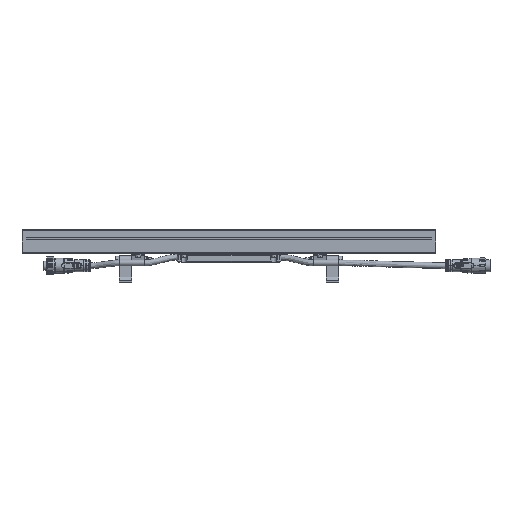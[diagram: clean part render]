
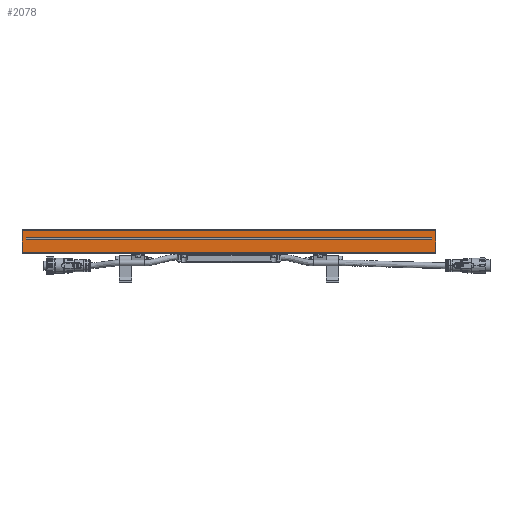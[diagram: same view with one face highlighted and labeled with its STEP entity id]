
A CAD part, top view. The second image highlights one B-rep face of the part: STEP entity #2078.
In plain terms, the highlighted planar face has unit normal (0, 0, 1).
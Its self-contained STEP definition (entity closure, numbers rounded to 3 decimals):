
#210 = FACE_OUTER_BOUND ( 'NONE', #66393, .T. ) ;
#940 = VECTOR ( 'NONE', #8649, 1000. ) ;
#2078 = ADVANCED_FACE ( 'NONE', ( #63482, #210 ), #24671, .T. ) ;
#2498 = CARTESIAN_POINT ( 'NONE',  ( 245., 54.2, 21. ) ) ;
#4235 = LINE ( 'NONE', #27200, #34427 ) ;
#6045 = VERTEX_POINT ( 'NONE', #53182 ) ;
#7246 = DIRECTION ( 'NONE',  ( 0., -1., 0. ) ) ;
#7871 = EDGE_LOOP ( 'NONE', ( #20884, #29689, #50807, #33663 ) ) ;
#8331 = LINE ( 'NONE', #19264, #21238 ) ;
#8649 = DIRECTION ( 'NONE',  ( -1., 0., 0. ) ) ;
#9022 = LINE ( 'NONE', #43361, #940 ) ;
#9226 = AXIS2_PLACEMENT_3D ( 'NONE', #57476, #28833, #12980 ) ;
#9594 = LINE ( 'NONE', #37175, #17132 ) ;
#12980 = DIRECTION ( 'NONE',  ( 0., 1., 0. ) ) ;
#13011 = EDGE_CURVE ( 'NONE', #23056, #74286, #16968, .T. ) ;
#15131 = VERTEX_POINT ( 'NONE', #2498 ) ;
#16540 = VECTOR ( 'NONE', #45265, 1000. ) ;
#16968 = LINE ( 'NONE', #57313, #31116 ) ;
#17132 = VECTOR ( 'NONE', #37533, 1000. ) ;
#17839 = VERTEX_POINT ( 'NONE', #71213 ) ;
#19264 = CARTESIAN_POINT ( 'NONE',  ( -245., 62.5, 21. ) ) ;
#19920 = VERTEX_POINT ( 'NONE', #29558 ) ;
#20824 = DIRECTION ( 'NONE',  ( 0., -1., 0. ) ) ;
#20884 = ORIENTED_EDGE ( 'NONE', *, *, #49975, .F. ) ;
#21238 = VECTOR ( 'NONE', #7246, 1000. ) ;
#22228 = CARTESIAN_POINT ( 'NONE',  ( -749.8, 36., 21. ) ) ;
#23056 = VERTEX_POINT ( 'NONE', #35008 ) ;
#23661 = EDGE_CURVE ( 'NONE', #50915, #23056, #4235, .T. ) ;
#24671 = PLANE ( 'NONE',  #9226 ) ;
#27200 = CARTESIAN_POINT ( 'NONE',  ( -745., 62.5, 21. ) ) ;
#28112 = CARTESIAN_POINT ( 'NONE',  ( -249.8, 36., 21. ) ) ;
#28833 = DIRECTION ( 'NONE',  ( 0., 0., 1. ) ) ;
#29558 = CARTESIAN_POINT ( 'NONE',  ( -245., 51.8, 21. ) ) ;
#29689 = ORIENTED_EDGE ( 'NONE', *, *, #35605, .F. ) ;
#30673 = EDGE_CURVE ( 'NONE', #6045, #19920, #9594, .T. ) ;
#31116 = VECTOR ( 'NONE', #73866, 1000. ) ;
#33175 = LINE ( 'NONE', #56140, #16540 ) ;
#33663 = ORIENTED_EDGE ( 'NONE', *, *, #30673, .T. ) ;
#34427 = VECTOR ( 'NONE', #38521, 1000. ) ;
#35008 = CARTESIAN_POINT ( 'NONE',  ( -249.8, 62.5, 21. ) ) ;
#35605 = EDGE_CURVE ( 'NONE', #15131, #70552, #9022, .T. ) ;
#37175 = CARTESIAN_POINT ( 'NONE',  ( 245., 51.8, 21. ) ) ;
#37533 = DIRECTION ( 'NONE',  ( -1., 0., 0. ) ) ;
#38521 = DIRECTION ( 'NONE',  ( -1., 0., 0. ) ) ;
#40448 = EDGE_CURVE ( 'NONE', #15131, #6045, #55126, .T. ) ;
#43361 = CARTESIAN_POINT ( 'NONE',  ( 245., 54.2, 21. ) ) ;
#43975 = EDGE_CURVE ( 'NONE', #50915, #17839, #33175, .T. ) ;
#45265 = DIRECTION ( 'NONE',  ( 0., -1., 0. ) ) ;
#45646 = CARTESIAN_POINT ( 'NONE',  ( 249.8, 62.5, 21. ) ) ;
#45915 = ORIENTED_EDGE ( 'NONE', *, *, #13011, .T. ) ;
#49544 = VECTOR ( 'NONE', #73465, 1000. ) ;
#49975 = EDGE_CURVE ( 'NONE', #70552, #19920, #8331, .T. ) ;
#50807 = ORIENTED_EDGE ( 'NONE', *, *, #40448, .T. ) ;
#50915 = VERTEX_POINT ( 'NONE', #45646 ) ;
#53182 = CARTESIAN_POINT ( 'NONE',  ( 245., 51.8, 21. ) ) ;
#55126 = LINE ( 'NONE', #66778, #73864 ) ;
#55526 = EDGE_CURVE ( 'NONE', #74286, #17839, #56157, .T. ) ;
#56140 = CARTESIAN_POINT ( 'NONE',  ( 249.8, 62.5, 21. ) ) ;
#56157 = LINE ( 'NONE', #22228, #49544 ) ;
#56456 = ORIENTED_EDGE ( 'NONE', *, *, #23661, .T. ) ;
#57313 = CARTESIAN_POINT ( 'NONE',  ( -249.8, 62.5, 21. ) ) ;
#57476 = CARTESIAN_POINT ( 'NONE',  ( -750., 35., 21. ) ) ;
#62355 = ORIENTED_EDGE ( 'NONE', *, *, #55526, .T. ) ;
#63482 = FACE_BOUND ( 'NONE', #7871, .T. ) ;
#64151 = ORIENTED_EDGE ( 'NONE', *, *, #43975, .F. ) ;
#66393 = EDGE_LOOP ( 'NONE', ( #56456, #45915, #62355, #64151 ) ) ;
#66778 = CARTESIAN_POINT ( 'NONE',  ( 245., 62.5, 21. ) ) ;
#70552 = VERTEX_POINT ( 'NONE', #73514 ) ;
#71213 = CARTESIAN_POINT ( 'NONE',  ( 249.8, 36., 21. ) ) ;
#73465 = DIRECTION ( 'NONE',  ( 1., 0., 0. ) ) ;
#73514 = CARTESIAN_POINT ( 'NONE',  ( -245., 54.2, 21. ) ) ;
#73864 = VECTOR ( 'NONE', #20824, 1000. ) ;
#73866 = DIRECTION ( 'NONE',  ( 0., -1., 0. ) ) ;
#74286 = VERTEX_POINT ( 'NONE', #28112 ) ;
